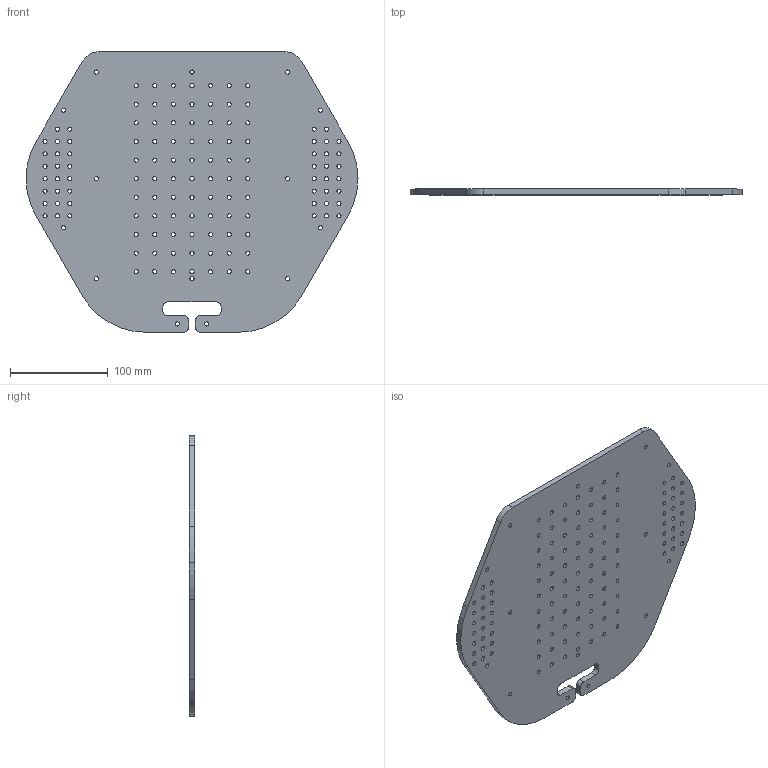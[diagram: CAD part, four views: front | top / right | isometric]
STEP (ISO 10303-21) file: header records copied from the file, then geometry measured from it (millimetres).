
FILE_DESCRIPTION((''),'2;1');
FILE_NAME('DISK_03_NEW','2012-11-01T',('asus'),(''),'PRO/ENGINEER BY PARAMETRIC TECHNOLOGY CORPORATION, 2010480','PRO/ENGINEER BY PARAMETRIC TECHNOLOGY CORPORATION, 2010480','');
FILE_SCHEMA(('CONFIG_CONTROL_DESIGN'));
Length unit declared in the file: millimetre
Products named in the file (1): DISK_03_NEW
Bounding box: 340 x 6 x 287.27 mm (x, y, z)
Volume: 457149.4 mm3; surface area: 170263.6 mm2
Topology: 1 solids, 1 shells, 308 faces, 918 edges, 612 vertices
Faces by surface type: cylinder 292, plane 16
Entity records: 11292 total; most frequent: DIRECTION 2118, CARTESIAN_POINT 1838, ORIENTED_EDGE 1836, EDGE_CURVE 918, AXIS2_PLACEMENT_3D 892, VERTEX_POINT 612, CIRCLE 584, EDGE_LOOP 582
